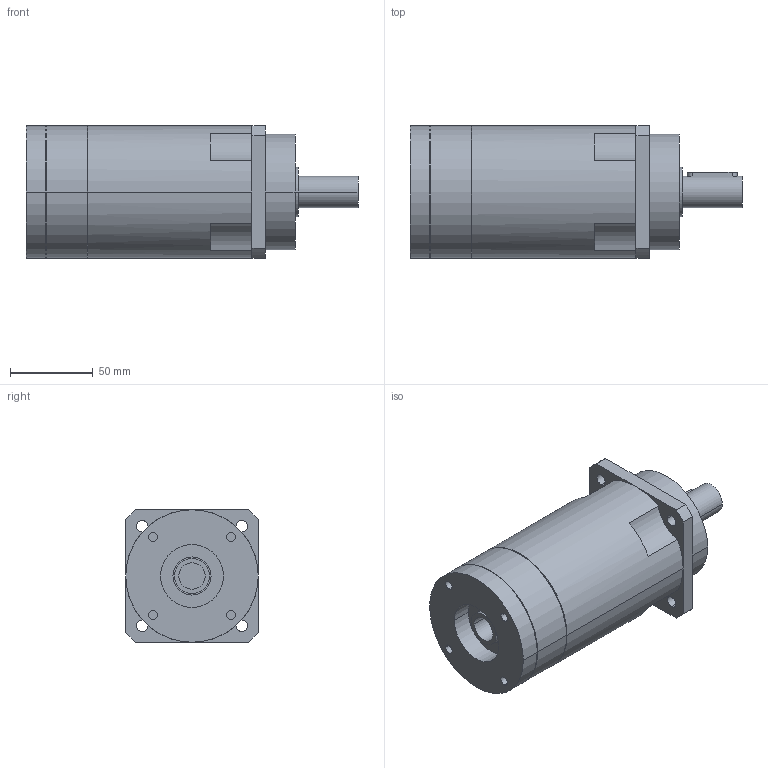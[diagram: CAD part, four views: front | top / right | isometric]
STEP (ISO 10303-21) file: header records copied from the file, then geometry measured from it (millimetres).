
FILE_DESCRIPTION(('CoCreate Modeling STEP Export'),'2;1');
FILE_NAME('GPR100_ig-48-64-80-100-120-144-180-216_19_B5_15.87_P01.stp','2014-08-26T11:55:30',(''),(''),'CoCreate Modeling STEP processor for AP214 (Solid Model)','CoCreate Modeling 16.00C 25-Feb-2009 (C) Parametric Technology GmbH','');
FILE_SCHEMA(('AUTOMOTIVE_DESIGN { 1 0 10303 214 1 1 1 1 }'));
Length unit declared in the file: millimetre
Products named in the file (2): GPR100_ig-48-64-80-100-120-144-180-216_19_B5_15.87_P01
Assembly tree (1 placements, depth 2):
  GPR100_ig-48-64-80-100-120-144-180-216_19_B5_15.87_P01
    GPR100_ig-48-64-80-100-120-144-180-216_19_B5_15.87_P01
Bounding box: 200.4 x 80 x 80 mm (x, y, z)
Volume: 786989.6 mm3; surface area: 62474.5 mm2
Topology: 1 solids, 1 shells, 96 faces, 248 edges, 170 vertices
Faces by surface type: cylinder 56, plane 34, cone 6
Entity records: 2599 total; most frequent: ORIENTED_EDGE 492, CARTESIAN_POINT 466, DIRECTION 376, EDGE_CURVE 246, VERTEX_POINT 170, AXIS2_PLACEMENT_3D 144, EDGE_LOOP 122, FACE_OUTER_BOUND 96
